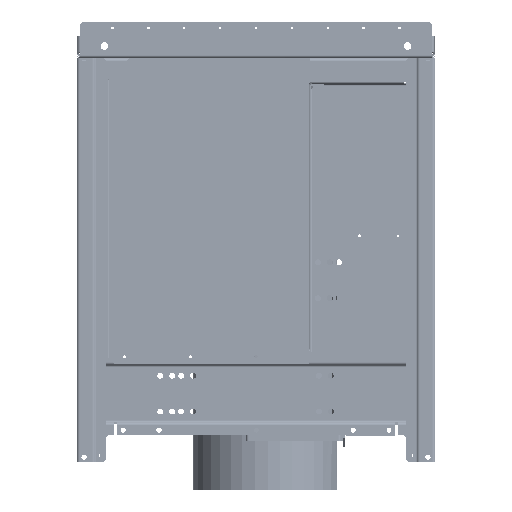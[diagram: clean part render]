
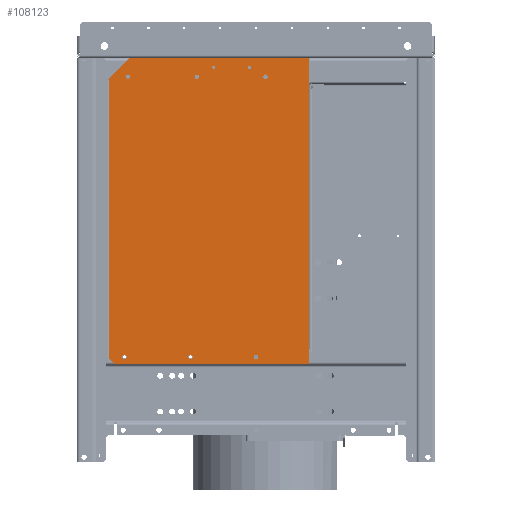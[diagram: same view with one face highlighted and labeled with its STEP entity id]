
A CAD part, left-side view. The second image highlights one B-rep face of the part: STEP entity #108123.
In plain terms, the highlighted planar face has unit normal (-1, 0, 0) as drawn and (0, 0, -1) by its records, which use the part's own axes.
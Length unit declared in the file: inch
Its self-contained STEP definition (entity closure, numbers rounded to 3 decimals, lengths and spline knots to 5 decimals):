
#107019=DIRECTION('',(-1.,0.,0.));
#107020=VECTOR('',#107019,1.25);
#107021=CARTESIAN_POINT('',(12.78,3.69322,-0.0396));
#107022=LINE('',#107021,#107020);
#107089=DIRECTION('',(1.,0.,0.));
#107090=VECTOR('',#107089,23.4748);
#107091=CARTESIAN_POINT('',(-11.1124,20.34442,-0.0396));
#107092=LINE('',#107091,#107090);
#107111=DIRECTION('',(-0.707,-0.707,0.));
#107112=VECTOR('',#107111,2.35834);
#107113=CARTESIAN_POINT('',(-11.1124,20.34442,-0.0396));
#107114=LINE('',#107113,#107112);
#107115=DIRECTION('',(0.,-1.,0.));
#107116=VECTOR('',#107115,14.9836);
#107117=CARTESIAN_POINT('',(-12.78,18.67682,-0.0396));
#107118=LINE('',#107117,#107116);
#107119=DIRECTION('',(1.,0.,0.));
#107120=VECTOR('',#107119,2.2);
#107121=CARTESIAN_POINT('',(-12.78,3.69322,-0.0396));
#107122=LINE('',#107121,#107120);
#107123=DIRECTION('',(0.,1.,0.));
#107124=VECTOR('',#107123,16.2336);
#107125=CARTESIAN_POINT('',(12.78,3.69322,-0.0396));
#107126=LINE('',#107125,#107124);
#107127=DIRECTION('',(-0.707,0.707,
0.));
#107128=VECTOR('',#107127,0.59058);
#107129=CARTESIAN_POINT('',(12.78,19.92682,-0.0396));
#107130=LINE('',#107129,#107128);
#107131=CARTESIAN_POINT('',(-11.25,13.04402,-0.0396));
#107132=DIRECTION('',(0.,0.,-1.));
#107133=DIRECTION('',(-1.,0.,0.));
#107134=AXIS2_PLACEMENT_3D('',#107131,#107132,#107133);
#107136=CARTESIAN_POINT('',(-11.25,13.04402,-0.0396));
#107137=DIRECTION('',(0.,0.,-1.));
#107138=DIRECTION('',(1.,0.,0.));
#107139=AXIS2_PLACEMENT_3D('',#107136,#107137,#107138);
#107141=CARTESIAN_POINT('',(-11.25,7.29402,-0.0396));
#107142=DIRECTION('',(0.,0.,-1.));
#107143=DIRECTION('',(-1.,0.,0.));
#107144=AXIS2_PLACEMENT_3D('',#107141,#107142,#107143);
#107146=CARTESIAN_POINT('',(-11.25,7.29402,-0.0396));
#107147=DIRECTION('',(0.,0.,-1.));
#107148=DIRECTION('',(1.,0.,0.));
#107149=AXIS2_PLACEMENT_3D('',#107146,#107147,#107148);
#107151=CARTESIAN_POINT('',(12.18,19.08402,-0.0396));
#107152=DIRECTION('',(0.,0.,-1.));
#107153=DIRECTION('',(-1.,0.,0.));
#107154=AXIS2_PLACEMENT_3D('',#107151,#107152,#107153);
#107156=CARTESIAN_POINT('',(12.18,19.08402,-0.0396));
#107157=DIRECTION('',(0.,0.,-1.));
#107158=DIRECTION('',(1.,0.,0.));
#107159=AXIS2_PLACEMENT_3D('',#107156,#107157,#107158);
#107161=CARTESIAN_POINT('',(12.18,13.58402,-0.0396));
#107162=DIRECTION('',(0.,0.,-1.));
#107163=DIRECTION('',(-1.,0.,0.));
#107164=AXIS2_PLACEMENT_3D('',#107161,#107162,#107163);
#107166=CARTESIAN_POINT('',(12.18,13.58402,-0.0396));
#107167=DIRECTION('',(0.,0.,-1.));
#107168=DIRECTION('',(1.,0.,0.));
#107169=AXIS2_PLACEMENT_3D('',#107166,#107167,#107168);
#107171=CARTESIAN_POINT('',(12.18,8.08402,-0.0396));
#107172=DIRECTION('',(0.,0.,-1.));
#107173=DIRECTION('',(-1.,0.,0.));
#107174=AXIS2_PLACEMENT_3D('',#107171,#107172,#107173);
#107176=CARTESIAN_POINT('',(12.18,8.08402,-0.0396));
#107177=DIRECTION('',(0.,0.,-1.));
#107178=DIRECTION('',(1.,0.,0.));
#107179=AXIS2_PLACEMENT_3D('',#107176,#107177,#107178);
#107181=CARTESIAN_POINT('',(-12.04,11.63322,-0.0396));
#107182=DIRECTION('',(0.,0.,-1.));
#107183=DIRECTION('',(1.,0.,0.));
#107184=AXIS2_PLACEMENT_3D('',#107181,#107182,#107183);
#107186=CARTESIAN_POINT('',(-12.04,11.63322,-0.0396));
#107187=DIRECTION('',(0.,0.,-1.));
#107188=DIRECTION('',(-1.,0.,0.));
#107189=AXIS2_PLACEMENT_3D('',#107186,#107187,#107188);
#107191=CARTESIAN_POINT('',(-12.04,8.63322,-0.0396));
#107192=DIRECTION('',(0.,0.,-1.));
#107193=DIRECTION('',(1.,0.,0.));
#107194=AXIS2_PLACEMENT_3D('',#107191,#107192,#107193);
#107196=CARTESIAN_POINT('',(-12.04,8.63322,-0.0396));
#107197=DIRECTION('',(0.,0.,-1.));
#107198=DIRECTION('',(-1.,0.,0.));
#107199=AXIS2_PLACEMENT_3D('',#107196,#107197,#107198);
#107201=CARTESIAN_POINT('',(-11.25,18.79402,-0.0396));
#107202=DIRECTION('',(0.,0.,-1.));
#107203=DIRECTION('',(-1.,0.,0.));
#107204=AXIS2_PLACEMENT_3D('',#107201,#107202,#107203);
#107206=CARTESIAN_POINT('',(-11.25,18.79402,-0.0396));
#107207=DIRECTION('',(0.,0.,-1.));
#107208=DIRECTION('',(1.,0.,0.));
#107209=AXIS2_PLACEMENT_3D('',#107206,#107207,#107208);
#107215=DIRECTION('',(-1.,0.,0.));
#107216=VECTOR('',#107215,22.11);
#107217=CARTESIAN_POINT('',(11.53,3.69322,-0.0396));
#107218=LINE('',#107217,#107216);
#107501=CARTESIAN_POINT('',(-12.78,18.67682,-0.0396));
#107502=VERTEX_POINT('',#107501);
#107503=CARTESIAN_POINT('',(-11.1124,20.34442,-0.0396));
#107504=VERTEX_POINT('',#107503);
#107505=CARTESIAN_POINT('',(-12.78,3.69322,-0.0396));
#107506=VERTEX_POINT('',#107505);
#107507=CARTESIAN_POINT('',(-10.58,3.69322,-0.0396));
#107508=VERTEX_POINT('',#107507);
#107545=CARTESIAN_POINT('',(11.53,3.69322,-0.0396));
#107546=VERTEX_POINT('',#107545);
#107547=CARTESIAN_POINT('',(12.78,3.69322,-0.0396));
#107548=VERTEX_POINT('',#107547);
#107549=CARTESIAN_POINT('',(12.78,19.92682,-0.0396));
#107550=VERTEX_POINT('',#107549);
#107551=CARTESIAN_POINT('',(12.3624,20.34442,-0.0396));
#107552=VERTEX_POINT('',#107551);
#107558=CARTESIAN_POINT('',(-11.44,13.04402,-0.0396));
#107559=CARTESIAN_POINT('',(-11.06,13.04402,-0.0396));
#107560=VERTEX_POINT('',#107558);
#107561=VERTEX_POINT('',#107559);
#107562=CARTESIAN_POINT('',(-11.44,7.29402,-0.0396));
#107563=CARTESIAN_POINT('',(-11.06,7.29402,-0.0396));
#107564=VERTEX_POINT('',#107562);
#107565=VERTEX_POINT('',#107563);
#107566=CARTESIAN_POINT('',(11.99,19.08402,-0.0396));
#107567=CARTESIAN_POINT('',(12.37,19.08402,-0.0396));
#107568=VERTEX_POINT('',#107566);
#107569=VERTEX_POINT('',#107567);
#107570=CARTESIAN_POINT('',(11.99,13.58402,-0.0396));
#107571=CARTESIAN_POINT('',(12.37,13.58402,-0.0396));
#107572=VERTEX_POINT('',#107570);
#107573=VERTEX_POINT('',#107571);
#107574=CARTESIAN_POINT('',(11.99,8.08402,-0.0396));
#107575=CARTESIAN_POINT('',(12.37,8.08402,-0.0396));
#107576=VERTEX_POINT('',#107574);
#107577=VERTEX_POINT('',#107575);
#107578=CARTESIAN_POINT('',(-11.9,11.63322,-0.0396));
#107579=CARTESIAN_POINT('',(-12.18,11.63322,-0.0396));
#107580=VERTEX_POINT('',#107578);
#107581=VERTEX_POINT('',#107579);
#107582=CARTESIAN_POINT('',(-11.9,8.63322,-0.0396));
#107583=CARTESIAN_POINT('',(-12.18,8.63322,-0.0396));
#107584=VERTEX_POINT('',#107582);
#107585=VERTEX_POINT('',#107583);
#107586=CARTESIAN_POINT('',(-11.44,18.79402,-0.0396));
#107587=CARTESIAN_POINT('',(-11.06,18.79402,-0.0396));
#107588=VERTEX_POINT('',#107586);
#107589=VERTEX_POINT('',#107587);
#108059=CARTESIAN_POINT('',(0.,0.,-0.0396));
#108060=DIRECTION('',(0.,0.,1.));
#108061=DIRECTION('',(1.,0.,0.));
#108062=AXIS2_PLACEMENT_3D('',#108059,#108060,#108061);
#108063=PLANE('',#108062);
#108064=ORIENTED_EDGE('',*,*,#107703,.T.);
#108065=ORIENTED_EDGE('',*,*,#107719,.T.);
#108066=ORIENTED_EDGE('',*,*,#107732,.T.);
#108068=ORIENTED_EDGE('',*,*,#108067,.F.);
#108069=ORIENTED_EDGE('',*,*,#107896,.F.);
#108070=ORIENTED_EDGE('',*,*,#107909,.T.);
#108071=ORIENTED_EDGE('',*,*,#107924,.T.);
#108072=ORIENTED_EDGE('',*,*,#108051,.F.);
#108073=EDGE_LOOP('',(#108064,#108065,#108066,#108068,#108069,#108070,#108071,
#108072));
#108074=FACE_OUTER_BOUND('',#108073,.F.);
#108076=ORIENTED_EDGE('',*,*,#108075,.T.);
#108078=ORIENTED_EDGE('',*,*,#108077,.T.);
#108079=EDGE_LOOP('',(#108076,#108078));
#108080=FACE_BOUND('',#108079,.F.);
#108082=ORIENTED_EDGE('',*,*,#108081,.T.);
#108084=ORIENTED_EDGE('',*,*,#108083,.T.);
#108085=EDGE_LOOP('',(#108082,#108084));
#108086=FACE_BOUND('',#108085,.F.);
#108088=ORIENTED_EDGE('',*,*,#108087,.T.);
#108090=ORIENTED_EDGE('',*,*,#108089,.T.);
#108091=EDGE_LOOP('',(#108088,#108090));
#108092=FACE_BOUND('',#108091,.F.);
#108094=ORIENTED_EDGE('',*,*,#108093,.T.);
#108096=ORIENTED_EDGE('',*,*,#108095,.T.);
#108097=EDGE_LOOP('',(#108094,#108096));
#108098=FACE_BOUND('',#108097,.F.);
#108100=ORIENTED_EDGE('',*,*,#108099,.T.);
#108102=ORIENTED_EDGE('',*,*,#108101,.T.);
#108103=EDGE_LOOP('',(#108100,#108102));
#108104=FACE_BOUND('',#108103,.F.);
#108106=ORIENTED_EDGE('',*,*,#108105,.T.);
#108108=ORIENTED_EDGE('',*,*,#108107,.T.);
#108109=EDGE_LOOP('',(#108106,#108108));
#108110=FACE_BOUND('',#108109,.F.);
#108112=ORIENTED_EDGE('',*,*,#108111,.T.);
#108114=ORIENTED_EDGE('',*,*,#108113,.T.);
#108115=EDGE_LOOP('',(#108112,#108114));
#108116=FACE_BOUND('',#108115,.F.);
#108118=ORIENTED_EDGE('',*,*,#108117,.T.);
#108120=ORIENTED_EDGE('',*,*,#108119,.T.);
#108121=EDGE_LOOP('',(#108118,#108120));
#108122=FACE_BOUND('',#108121,.F.);
#108123=ADVANCED_FACE('',(#108074,#108080,#108086,#108092,#108098,#108104,
#108110,#108116,#108122),#108063,.F.);
#107135=CIRCLE('',#107134,0.19);
#107140=CIRCLE('',#107139,0.19);
#107145=CIRCLE('',#107144,0.19);
#107150=CIRCLE('',#107149,0.19);
#107155=CIRCLE('',#107154,0.19);
#107160=CIRCLE('',#107159,0.19);
#107165=CIRCLE('',#107164,0.19);
#107170=CIRCLE('',#107169,0.19);
#107175=CIRCLE('',#107174,0.19);
#107180=CIRCLE('',#107179,0.19);
#107185=CIRCLE('',#107184,0.14);
#107190=CIRCLE('',#107189,0.14);
#107195=CIRCLE('',#107194,0.14);
#107200=CIRCLE('',#107199,0.14);
#107205=CIRCLE('',#107204,0.19);
#107210=CIRCLE('',#107209,0.19);
#107703=EDGE_CURVE('',#107504,#107502,#107114,.T.);
#107719=EDGE_CURVE('',#107502,#107506,#107118,.T.);
#107732=EDGE_CURVE('',#107506,#107508,#107122,.T.);
#107896=EDGE_CURVE('',#107548,#107546,#107022,.T.);
#107909=EDGE_CURVE('',#107548,#107550,#107126,.T.);
#107924=EDGE_CURVE('',#107550,#107552,#107130,.T.);
#108051=EDGE_CURVE('',#107504,#107552,#107092,.T.);
#108067=EDGE_CURVE('',#107546,#107508,#107218,.T.);
#108075=EDGE_CURVE('',#107560,#107561,#107135,.T.);
#108077=EDGE_CURVE('',#107561,#107560,#107140,.T.);
#108081=EDGE_CURVE('',#107564,#107565,#107145,.T.);
#108083=EDGE_CURVE('',#107565,#107564,#107150,.T.);
#108087=EDGE_CURVE('',#107568,#107569,#107155,.T.);
#108089=EDGE_CURVE('',#107569,#107568,#107160,.T.);
#108093=EDGE_CURVE('',#107572,#107573,#107165,.T.);
#108095=EDGE_CURVE('',#107573,#107572,#107170,.T.);
#108099=EDGE_CURVE('',#107576,#107577,#107175,.T.);
#108101=EDGE_CURVE('',#107577,#107576,#107180,.T.);
#108105=EDGE_CURVE('',#107580,#107581,#107185,.T.);
#108107=EDGE_CURVE('',#107581,#107580,#107190,.T.);
#108111=EDGE_CURVE('',#107584,#107585,#107195,.T.);
#108113=EDGE_CURVE('',#107585,#107584,#107200,.T.);
#108117=EDGE_CURVE('',#107588,#107589,#107205,.T.);
#108119=EDGE_CURVE('',#107589,#107588,#107210,.T.);
